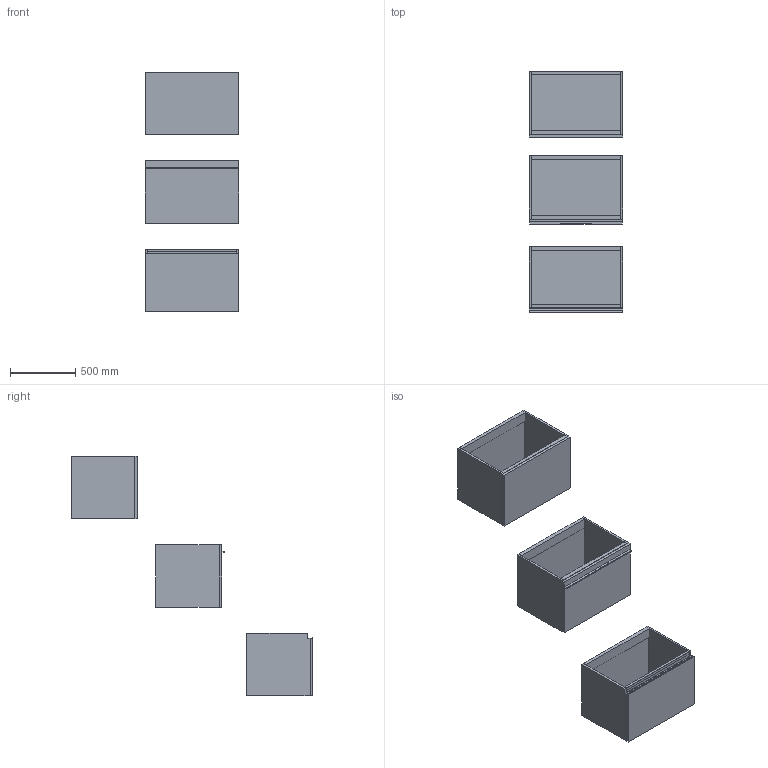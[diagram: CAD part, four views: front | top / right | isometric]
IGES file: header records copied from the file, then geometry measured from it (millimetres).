
Start section: Data from Parasolid IGES Translator 19.0.9, Copyright(c) 2006 Siemens PL M Software. All Rights Reserved.
Global section: file name: noorth-SI-H 48 D 51 W 72_8510.igs; native system: By Siemens PLM Incorporated; preprocessor: XPlus GENERIC/IGES 19.0.9; author: Noname; organization: Noname; date: 20200601.114436; units: metre
Bounding box: 720 x 1857.1 x 1840.01 mm (x, y, z)
Volume: 66349998.9 mm3; surface area: 9902003.1 mm2
Topology: 23 solids, 23 shells, 196 faces, 418 edges, 258 vertices
Faces by surface type: plane 152, extrusion 16, bspline 16, cylinder 12
